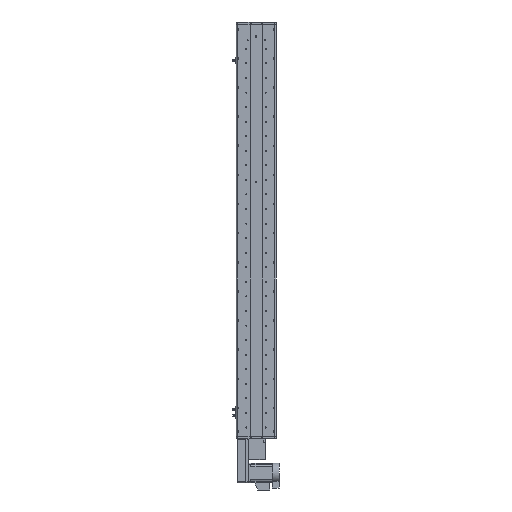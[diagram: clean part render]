
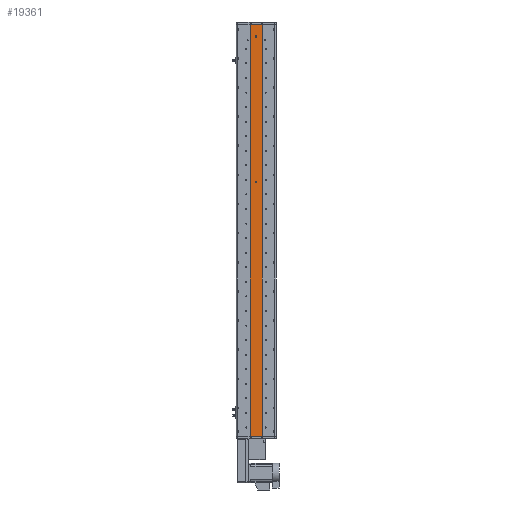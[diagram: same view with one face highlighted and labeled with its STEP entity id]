
A CAD part, front view. The second image highlights one B-rep face of the part: STEP entity #19361.
In plain terms, the highlighted planar face has unit normal (0, -1, 0).
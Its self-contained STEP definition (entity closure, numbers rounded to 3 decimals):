
#24 = VERTEX_POINT ( 'NONE', #33414 ) ;
#1149 = CARTESIAN_POINT ( 'NONE',  ( 0., 1., 798.5 ) ) ;
#1321 = LINE ( 'NONE', #47843, #55951 ) ;
#1753 = DIRECTION ( 'NONE',  ( 1., 0., 0. ) ) ;
#3658 = CARTESIAN_POINT ( 'NONE',  ( 0., 1., 198.5 ) ) ;
#5195 = DIRECTION ( 'NONE',  ( 0., 0., -1. ) ) ;
#6438 = DIRECTION ( 'NONE',  ( 0., 0., -1. ) ) ;
#6681 = CARTESIAN_POINT ( 'NONE',  ( 0., 1., 801.5 ) ) ;
#6789 = ORIENTED_EDGE ( 'NONE', *, *, #15356, .T. ) ;
#6795 = EDGE_LOOP ( 'NONE', ( #56594, #16771 ) ) ;
#6994 = VERTEX_POINT ( 'NONE', #26296 ) ;
#7112 = LINE ( 'NONE', #56268, #49288 ) ;
#7495 = VERTEX_POINT ( 'NONE', #9137 ) ;
#7530 = VERTEX_POINT ( 'NONE', #35916 ) ;
#9006 = DIRECTION ( 'NONE',  ( 0., 0., -1. ) ) ;
#9137 = CARTESIAN_POINT ( 'NONE',  ( 0., 1., 201.5 ) ) ;
#10884 = DIRECTION ( 'NONE',  ( 0., 0., -1. ) ) ;
#10918 = FACE_OUTER_BOUND ( 'NONE', #58133, .T. ) ;
#12447 = CARTESIAN_POINT ( 'NONE',  ( 0., 1., 795.5 ) ) ;
#12852 = AXIS2_PLACEMENT_3D ( 'NONE', #56421, #67052, #35342 ) ;
#13953 = DIRECTION ( 'NONE',  ( 0., 0., -1. ) ) ;
#14216 = EDGE_CURVE ( 'NONE', #7530, #7495, #37300, .T. ) ;
#15356 = EDGE_CURVE ( 'NONE', #46621, #6994, #18039, .T. ) ;
#15706 = DIRECTION ( 'NONE',  ( 1., 0., 0. ) ) ;
#15744 = CIRCLE ( 'NONE', #67238, 3. ) ;
#16771 = ORIENTED_EDGE ( 'NONE', *, *, #58274, .F. ) ;
#18039 = LINE ( 'NONE', #59775, #58627 ) ;
#18368 = ORIENTED_EDGE ( 'NONE', *, *, #64064, .F. ) ;
#18582 = AXIS2_PLACEMENT_3D ( 'NONE', #3658, #40656, #9006 ) ;
#19361 = ADVANCED_FACE ( 'NONE', ( #28250, #38988, #10918 ), #61741, .F. ) ;
#20339 = DIRECTION ( 'NONE',  ( 0., -1., 0. ) ) ;
#23218 = ORIENTED_EDGE ( 'NONE', *, *, #46615, .T. ) ;
#26296 = CARTESIAN_POINT ( 'NONE',  ( 25., 1., -848.5 ) ) ;
#28032 = AXIS2_PLACEMENT_3D ( 'NONE', #68578, #36863, #5195 ) ;
#28117 = EDGE_LOOP ( 'NONE', ( #58165, #18368 ) ) ;
#28250 = FACE_BOUND ( 'NONE', #6795, .T. ) ;
#30134 = VERTEX_POINT ( 'NONE', #6681 ) ;
#31394 = CARTESIAN_POINT ( 'NONE',  ( 25., 1., 848.5 ) ) ;
#31798 = EDGE_CURVE ( 'NONE', #36067, #6994, #7112, .T. ) ;
#32810 = VECTOR ( 'NONE', #15706, 1000. ) ;
#33414 = CARTESIAN_POINT ( 'NONE',  ( -25., 1., 848.5 ) ) ;
#35342 = DIRECTION ( 'NONE',  ( 0., 0., 1. ) ) ;
#35758 = CARTESIAN_POINT ( 'NONE',  ( 25., 1., 848.5 ) ) ;
#35916 = CARTESIAN_POINT ( 'NONE',  ( 0., 1., 195.5 ) ) ;
#36067 = VERTEX_POINT ( 'NONE', #35758 ) ;
#36863 = DIRECTION ( 'NONE',  ( 0., -1., 0. ) ) ;
#37300 = CIRCLE ( 'NONE', #28032, 3. ) ;
#38087 = DIRECTION ( 'NONE',  ( 0., -1., 0. ) ) ;
#38616 = EDGE_CURVE ( 'NONE', #24, #36067, #46913, .T. ) ;
#38988 = FACE_BOUND ( 'NONE', #28117, .T. ) ;
#40656 = DIRECTION ( 'NONE',  ( 0., -1., 0. ) ) ;
#46615 = EDGE_CURVE ( 'NONE', #24, #46621, #1321, .T. ) ;
#46621 = VERTEX_POINT ( 'NONE', #58501 ) ;
#46726 = EDGE_CURVE ( 'NONE', #56778, #30134, #65021, .T. ) ;
#46913 = LINE ( 'NONE', #31394, #32810 ) ;
#47843 = CARTESIAN_POINT ( 'NONE',  ( -25., 1., 848.5 ) ) ;
#49288 = VECTOR ( 'NONE', #13953, 1000. ) ;
#49789 = ORIENTED_EDGE ( 'NONE', *, *, #31798, .F. ) ;
#52039 = CARTESIAN_POINT ( 'NONE',  ( 0., 1., 798.5 ) ) ;
#54033 = AXIS2_PLACEMENT_3D ( 'NONE', #1149, #38087, #6438 ) ;
#55951 = VECTOR ( 'NONE', #10884, 1000. ) ;
#56268 = CARTESIAN_POINT ( 'NONE',  ( 25., 1., 848.5 ) ) ;
#56421 = CARTESIAN_POINT ( 'NONE',  ( 25., 1., 848.5 ) ) ;
#56594 = ORIENTED_EDGE ( 'NONE', *, *, #14216, .F. ) ;
#56778 = VERTEX_POINT ( 'NONE', #12447 ) ;
#56875 = CIRCLE ( 'NONE', #18582, 3. ) ;
#57354 = DIRECTION ( 'NONE',  ( 0., 0., -1. ) ) ;
#58133 = EDGE_LOOP ( 'NONE', ( #6789, #49789, #63017, #23218 ) ) ;
#58165 = ORIENTED_EDGE ( 'NONE', *, *, #46726, .F. ) ;
#58274 = EDGE_CURVE ( 'NONE', #7495, #7530, #56875, .T. ) ;
#58501 = CARTESIAN_POINT ( 'NONE',  ( -25., 1., -848.5 ) ) ;
#58627 = VECTOR ( 'NONE', #1753, 1000. ) ;
#59775 = CARTESIAN_POINT ( 'NONE',  ( 25., 1., -848.5 ) ) ;
#61741 = PLANE ( 'NONE',  #12852 ) ;
#63017 = ORIENTED_EDGE ( 'NONE', *, *, #38616, .F. ) ;
#64064 = EDGE_CURVE ( 'NONE', #30134, #56778, #15744, .T. ) ;
#65021 = CIRCLE ( 'NONE', #54033, 3. ) ;
#67052 = DIRECTION ( 'NONE',  ( 0., 1., 0. ) ) ;
#67238 = AXIS2_PLACEMENT_3D ( 'NONE', #52039, #20339, #57354 ) ;
#68578 = CARTESIAN_POINT ( 'NONE',  ( 0., 1., 198.5 ) ) ;
